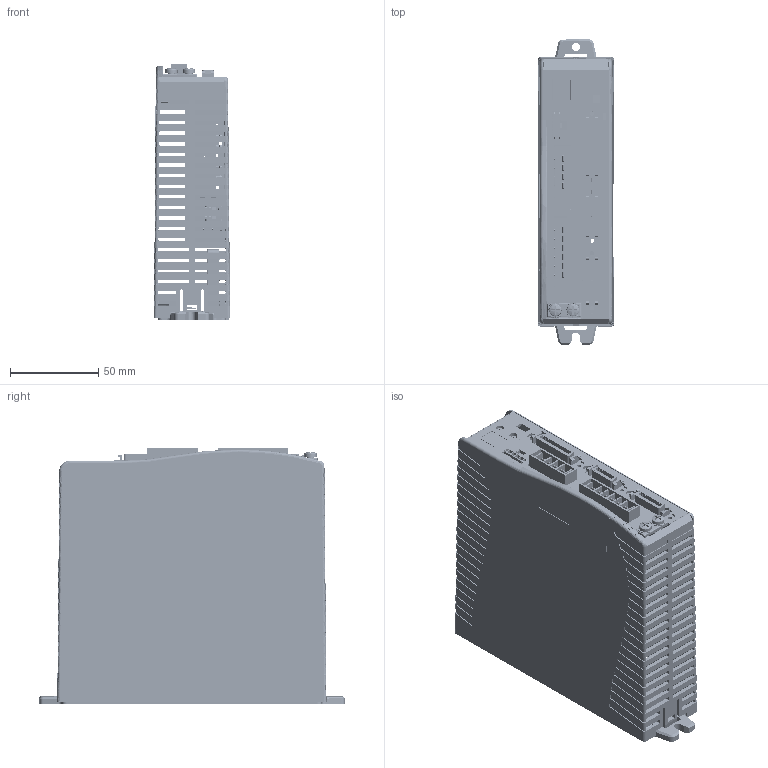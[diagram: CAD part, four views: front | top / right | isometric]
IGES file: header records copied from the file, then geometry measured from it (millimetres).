
Start section: SolidWorks IGES file using analytic representation for surfaces
Global section: file name: H:\ANaivelt\Roni\CDHD Catalog\CDHD_200V\CDHD 3A\CDHD-3A_cat.IGS; native system: SolidWorks 2009; preprocessor: SolidWorks 2009; author: Alexander.Naivelt; date: 140522.154159; units: millimetre
Bounding box: 43.2 x 173.12 x 144.88 mm (x, y, z)
Surface area: 174579.1 mm2 (no closed solid volume)
Topology: 0 solids, 0 shells, 8107 faces, 68223 edges, 68194 vertices
Faces by surface type: bspline 6488, revolution 1619
